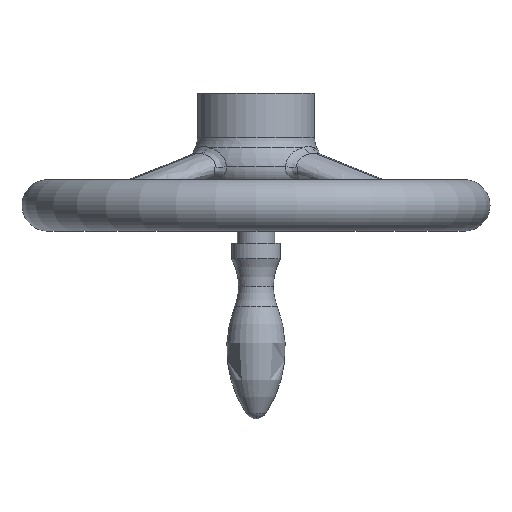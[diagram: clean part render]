
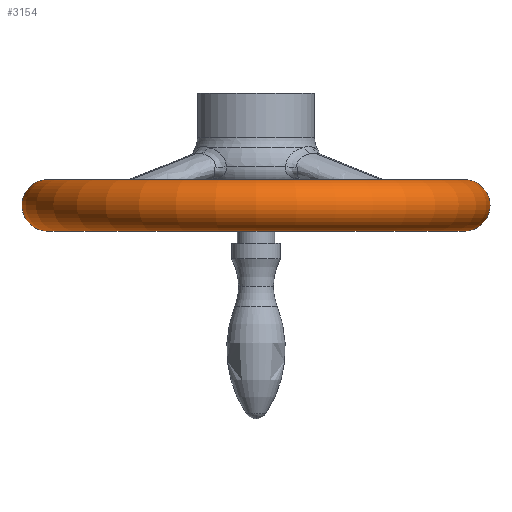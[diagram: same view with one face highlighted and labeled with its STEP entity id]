
A CAD part, front view. The second image highlights one B-rep face of the part: STEP entity #3154.
In plain terms, the highlighted toroidal (fillet/blend) face has major radius 89 mm and minor radius 11 mm.
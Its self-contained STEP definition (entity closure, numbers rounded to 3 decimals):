
#407 = AXIS2_PLACEMENT_3D ( 'NONE', #5777, #8991, #4193 ) ;
#601 = VERTEX_POINT ( 'NONE', #5830 ) ;
#957 = DIRECTION ( 'NONE',  ( 0., 0., 1. ) ) ;
#1191 = FACE_OUTER_BOUND ( 'NONE', #5154, .T. ) ;
#1310 = AXIS2_PLACEMENT_3D ( 'NONE', #5118, #957, #7583 ) ;
#1559 = VERTEX_POINT ( 'NONE', #1913 ) ;
#1913 = CARTESIAN_POINT ( 'NONE',  ( -89., 0., -38.5 ) ) ;
#1973 = CARTESIAN_POINT ( 'NONE',  ( 89., 0., -38.5 ) ) ;
#2819 = DIRECTION ( 'NONE',  ( 1., 0., 0. ) ) ;
#2901 = CARTESIAN_POINT ( 'NONE',  ( 0., 0., -38.5 ) ) ;
#2916 = EDGE_CURVE ( 'NONE', #1559, #7542, #4127, .T. ) ;
#3154 = ADVANCED_FACE ( 'NONE', ( #1191 ), #6487, .T. ) ;
#3507 = EDGE_CURVE ( 'NONE', #9155, #1559, #5648, .T. ) ;
#4127 = CIRCLE ( 'NONE', #7315, 89. ) ;
#4193 = DIRECTION ( 'NONE',  ( -1., 0., 0. ) ) ;
#4517 = CARTESIAN_POINT ( 'NONE',  ( 0., 0., -49.5 ) ) ;
#4752 = DIRECTION ( 'NONE',  ( 0., 0., -1. ) ) ;
#5018 = CIRCLE ( 'NONE', #9915, 11. ) ;
#5118 = CARTESIAN_POINT ( 'NONE',  ( 0., 0., -60.5 ) ) ;
#5154 = EDGE_LOOP ( 'NONE', ( #9117, #10320, #9968, #8046 ) ) ;
#5648 = CIRCLE ( 'NONE', #407, 11. ) ;
#5777 = CARTESIAN_POINT ( 'NONE',  ( -89., 0., -49.5 ) ) ;
#5830 = CARTESIAN_POINT ( 'NONE',  ( 89., 0., -60.5 ) ) ;
#5861 = CIRCLE ( 'NONE', #1310, 89. ) ;
#5987 = DIRECTION ( 'NONE',  ( 0., 0., 1. ) ) ;
#6120 = DIRECTION ( 'NONE',  ( 1., 0., 0. ) ) ;
#6487 = TOROIDAL_SURFACE ( 'NONE', #10030, 89., 11. ) ;
#6849 = EDGE_CURVE ( 'NONE', #601, #7542, #5018, .T. ) ;
#7315 = AXIS2_PLACEMENT_3D ( 'NONE', #2901, #7541, #6120 ) ;
#7541 = DIRECTION ( 'NONE',  ( 0., 0., 1. ) ) ;
#7542 = VERTEX_POINT ( 'NONE', #1973 ) ;
#7583 = DIRECTION ( 'NONE',  ( 1., 0., 0. ) ) ;
#8046 = ORIENTED_EDGE ( 'NONE', *, *, #2916, .F. ) ;
#8416 = CARTESIAN_POINT ( 'NONE',  ( -89., 0., -60.5 ) ) ;
#8593 = EDGE_CURVE ( 'NONE', #9155, #601, #5861, .T. ) ;
#8764 = DIRECTION ( 'NONE',  ( 0., -1., 0. ) ) ;
#8991 = DIRECTION ( 'NONE',  ( 0., 1., 0. ) ) ;
#9117 = ORIENTED_EDGE ( 'NONE', *, *, #3507, .F. ) ;
#9155 = VERTEX_POINT ( 'NONE', #8416 ) ;
#9915 = AXIS2_PLACEMENT_3D ( 'NONE', #10345, #8764, #4752 ) ;
#9968 = ORIENTED_EDGE ( 'NONE', *, *, #6849, .T. ) ;
#10030 = AXIS2_PLACEMENT_3D ( 'NONE', #4517, #5987, #2819 ) ;
#10320 = ORIENTED_EDGE ( 'NONE', *, *, #8593, .T. ) ;
#10345 = CARTESIAN_POINT ( 'NONE',  ( 89., 0., -49.5 ) ) ;
